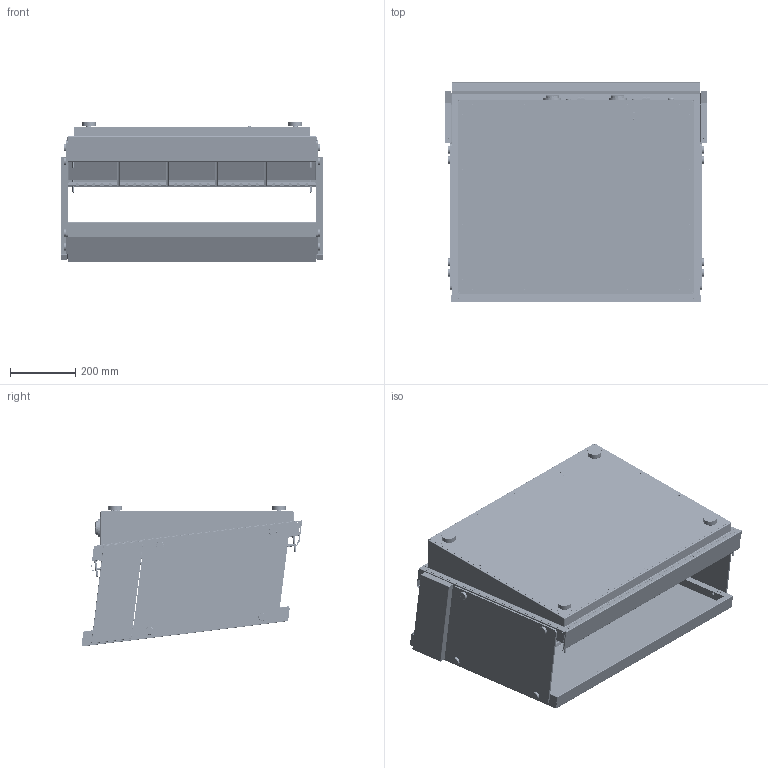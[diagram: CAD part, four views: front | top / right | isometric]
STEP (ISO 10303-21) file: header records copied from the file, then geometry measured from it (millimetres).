
FILE_DESCRIPTION (( 'STEP AP214' ), '1' );
FILE_NAME ('pres_CBIN801.STEP', '2024-12-20T09:26:41', ( '' ), ( '' ), 'SwSTEP 2.0', 'SolidWorks 2025', '' );
FILE_SCHEMA (( 'AUTOMOTIVE_DESIGN' ));
Length unit declared in the file: millimetre
Products named in the file (1): pres_CBIN801
Bounding box: 800.2 x 674.89 x 430.73 mm (x, y, z)
Volume: 4181416.4 mm3; surface area: 7509626.3 mm2
Topology: 95 solids, 95 shells, 5876 faces, 14974 edges, 9358 vertices
Faces by surface type: plane 2652, cylinder 2212, bspline 467, torus 264, sphere 226, cone 55
Entity records: 290543 total; most frequent: CARTESIAN_POINT 147096, ORIENTED_EDGE 29906, DIRECTION 28048, EDGE_CURVE 14953, AXIS2_PLACEMENT_3D 10458, VERTEX_POINT 9348, VECTOR 7132, LINE 7132
